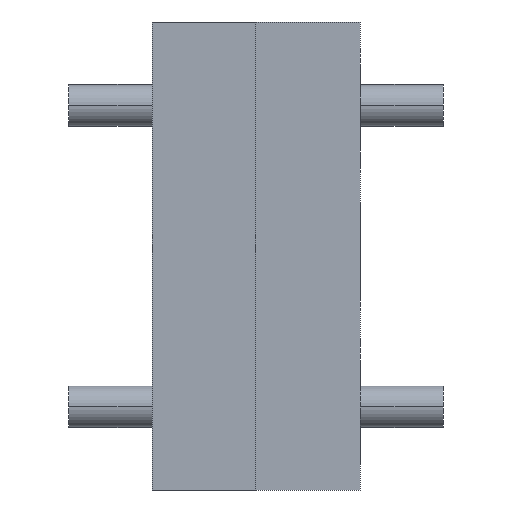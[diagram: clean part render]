
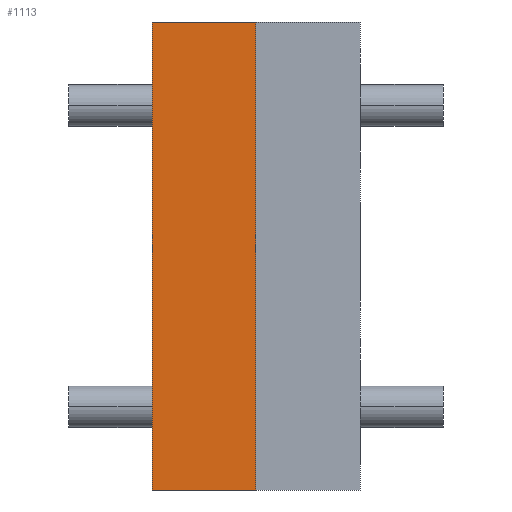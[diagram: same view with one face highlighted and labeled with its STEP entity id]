
A CAD part, left-side view. The second image highlights one B-rep face of the part: STEP entity #1113.
In plain terms, the highlighted planar face has unit normal (-1, 0, 0).
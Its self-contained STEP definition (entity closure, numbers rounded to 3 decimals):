
#1=DIRECTION('',(0.,0.,1.));
#2=VECTOR('',#1,45.);
#3=CARTESIAN_POINT('',(-30.,0.,-22.5));
#4=LINE('',#3,#2);
#87=DIRECTION('',(0.,1.,0.));
#88=VECTOR('',#87,10.);
#89=CARTESIAN_POINT('',(-30.,0.,-22.5));
#90=LINE('',#89,#88);
#99=DIRECTION('',(0.,1.,0.));
#100=VECTOR('',#99,10.);
#101=CARTESIAN_POINT('',(-30.,0.,22.5));
#102=LINE('',#101,#100);
#103=DIRECTION('',(0.,0.,1.));
#104=VECTOR('',#103,45.);
#105=CARTESIAN_POINT('',(-30.,10.,-22.5));
#106=LINE('',#105,#104);
#801=CARTESIAN_POINT('',(-30.,0.,-22.5));
#802=CARTESIAN_POINT('',(-30.,0.,22.5));
#803=VERTEX_POINT('',#801);
#804=VERTEX_POINT('',#802);
#809=CARTESIAN_POINT('',(-30.,10.,-22.5));
#810=CARTESIAN_POINT('',(-30.,10.,22.5));
#811=VERTEX_POINT('',#809);
#812=VERTEX_POINT('',#810);
#1099=CARTESIAN_POINT('',(-30.,0.,-22.5));
#1100=DIRECTION('',(-1.,0.,0.));
#1101=DIRECTION('',(0.,0.,1.));
#1102=AXIS2_PLACEMENT_3D('',#1099,#1100,#1101);
#1103=PLANE('',#1102);
#1104=ORIENTED_EDGE('',*,*,#1046,.F.);
#1106=ORIENTED_EDGE('',*,*,#1105,.T.);
#1108=ORIENTED_EDGE('',*,*,#1107,.T.);
#1110=ORIENTED_EDGE('',*,*,#1109,.F.);
#1111=EDGE_LOOP('',(#1104,#1106,#1108,#1110));
#1112=FACE_OUTER_BOUND('',#1111,.F.);
#1113=ADVANCED_FACE('',(#1112),#1103,.T.);
#1046=EDGE_CURVE('',#803,#804,#4,.T.);
#1105=EDGE_CURVE('',#803,#811,#90,.T.);
#1107=EDGE_CURVE('',#811,#812,#106,.T.);
#1109=EDGE_CURVE('',#804,#812,#102,.T.);
